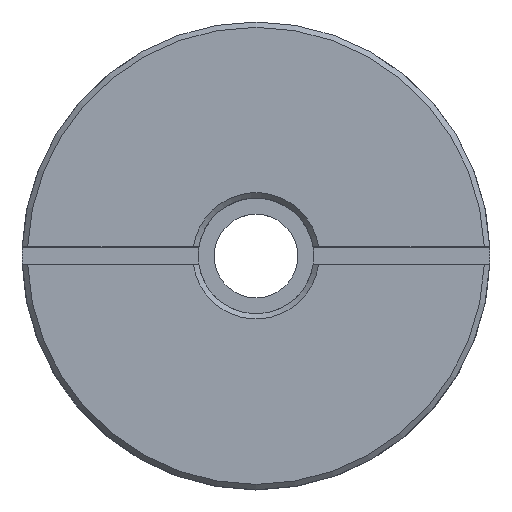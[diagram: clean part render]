
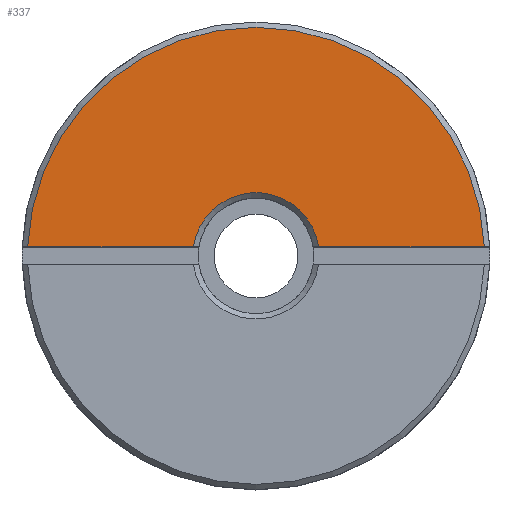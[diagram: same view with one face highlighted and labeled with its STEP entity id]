
A CAD part, top view. The second image highlights one B-rep face of the part: STEP entity #337.
In plain terms, the highlighted planar face has unit normal (0, 0, 1).
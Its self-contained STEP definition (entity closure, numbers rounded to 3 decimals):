
#32 = CIRCLE ( 'NONE', #632, 12.845 ) ;
#65 = LINE ( 'NONE', #240, #204 ) ;
#74 = CARTESIAN_POINT ( 'NONE',  ( 0., 0., 8. ) ) ;
#144 = DIRECTION ( 'NONE',  ( 1., 0., 0. ) ) ;
#161 = VECTOR ( 'NONE', #663, 1000. ) ;
#167 = LINE ( 'NONE', #226, #161 ) ;
#175 = EDGE_LOOP ( 'NONE', ( #773, #783, #355, #237 ) ) ;
#189 = EDGE_CURVE ( 'NONE', #260, #566, #167, .T. ) ;
#192 = DIRECTION ( 'NONE',  ( 0., 0., 1. ) ) ;
#204 = VECTOR ( 'NONE', #487, 1000. ) ;
#226 = CARTESIAN_POINT ( 'NONE',  ( -18.213, 0.5, 8. ) ) ;
#231 = EDGE_CURVE ( 'NONE', #328, #812, #65, .T. ) ;
#237 = ORIENTED_EDGE ( 'NONE', *, *, #445, .T. ) ;
#240 = CARTESIAN_POINT ( 'NONE',  ( -18.213, 0.5, 8. ) ) ;
#250 = PLANE ( 'NONE',  #416 ) ;
#260 = VERTEX_POINT ( 'NONE', #748 ) ;
#303 = FACE_OUTER_BOUND ( 'NONE', #175, .T. ) ;
#309 = CIRCLE ( 'NONE', #701, 3.55 ) ;
#328 = VERTEX_POINT ( 'NONE', #761 ) ;
#331 = CARTESIAN_POINT ( 'NONE',  ( 0., 0., 8. ) ) ;
#333 = DIRECTION ( 'NONE',  ( 0., 0., 1. ) ) ;
#337 = ADVANCED_FACE ( 'NONE', ( #303 ), #250, .T. ) ;
#355 = ORIENTED_EDGE ( 'NONE', *, *, #231, .F. ) ;
#372 = DIRECTION ( 'NONE',  ( 1., 0., 0. ) ) ;
#381 = EDGE_CURVE ( 'NONE', #260, #812, #32, .T. ) ;
#416 = AXIS2_PLACEMENT_3D ( 'NONE', #555, #192, #372 ) ;
#445 = EDGE_CURVE ( 'NONE', #328, #566, #309, .T. ) ;
#487 = DIRECTION ( 'NONE',  ( -1., 0., 0. ) ) ;
#506 = DIRECTION ( 'NONE',  ( 1., 0., 0. ) ) ;
#555 = CARTESIAN_POINT ( 'NONE',  ( 0., 0., 8. ) ) ;
#566 = VERTEX_POINT ( 'NONE', #730 ) ;
#632 = AXIS2_PLACEMENT_3D ( 'NONE', #331, #333, #144 ) ;
#639 = CARTESIAN_POINT ( 'NONE',  ( -12.835, 0.5, 8. ) ) ;
#663 = DIRECTION ( 'NONE',  ( -1., 0., 0. ) ) ;
#701 = AXIS2_PLACEMENT_3D ( 'NONE', #74, #785, #506 ) ;
#730 = CARTESIAN_POINT ( 'NONE',  ( 3.515, 0.5, 8. ) ) ;
#748 = CARTESIAN_POINT ( 'NONE',  ( 12.835, 0.5, 8. ) ) ;
#761 = CARTESIAN_POINT ( 'NONE',  ( -3.515, 0.5, 8. ) ) ;
#773 = ORIENTED_EDGE ( 'NONE', *, *, #189, .F. ) ;
#783 = ORIENTED_EDGE ( 'NONE', *, *, #381, .T. ) ;
#785 = DIRECTION ( 'NONE',  ( 0., 0., -1. ) ) ;
#812 = VERTEX_POINT ( 'NONE', #639 ) ;
